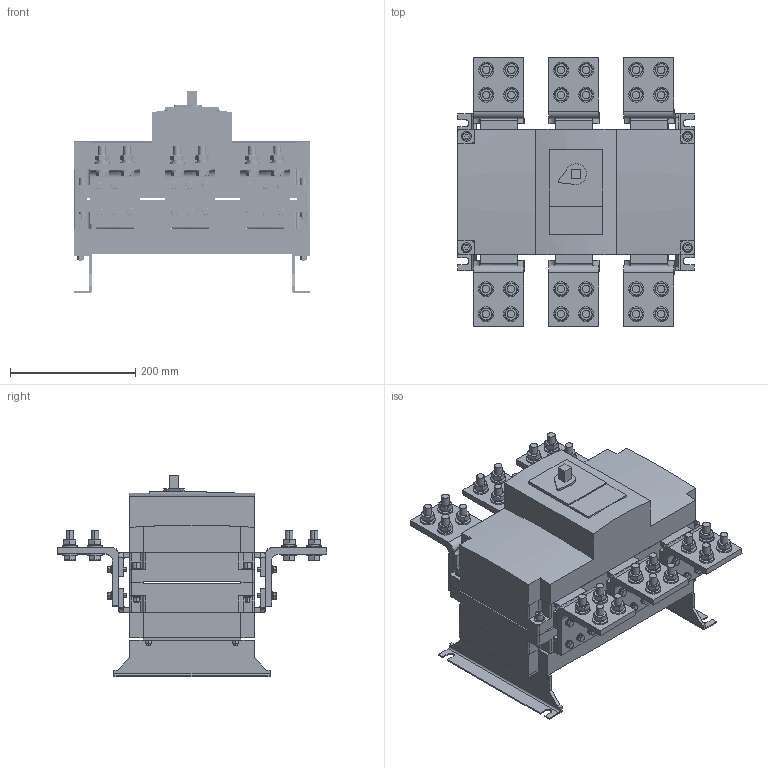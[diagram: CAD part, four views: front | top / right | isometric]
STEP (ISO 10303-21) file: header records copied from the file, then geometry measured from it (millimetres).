
FILE_DESCRIPTION((''),'2;1');
FILE_NAME('NH40-2000-3_ASM','2021-03-15T',('wangpeng'),(''),'PRO/ENGINEER BY PARAMETRIC TECHNOLOGY CORPORATION, 2009460','PRO/ENGINEER BY PARAMETRIC TECHNOLOGY CORPORATION, 2009460','');
FILE_SCHEMA(('AUTOMOTIVE_DESIGN { 1 0 10303 214 1 1 1 1 }'));
Length unit declared in the file: millimetre
Products named in the file (19): BANNH40-2000-3; DZNH40-2000-3; AZBNH40-2000-3; LJBNH40-2000-3; CTNH40-2000-3; SGNH40-2000-3; FZNH40-2000-3; ZSJNH40-2000-3; PDQ12; LSM12; TDQ12; LMM12; PDQ8; PDQ6; TDQ6; LSM6; NLFLSM6; LMM6; NH40-2000-3_ASM
Assembly tree (279 placements, depth 2):
  NH40-2000-3_ASM
    BANNH40-2000-3  x2
    DZNH40-2000-3
    AZBNH40-2000-3  x2
    LJBNH40-2000-3  x8
    CTNH40-2000-3  x6
    SGNH40-2000-3
    FZNH40-2000-3
    ZSJNH40-2000-3
    PDQ12  x49
    LSM12  x24
    TDQ12  x24
    LMM12  x24
    PDQ8  x4
    PDQ6  x40
    TDQ6  x40
    LSM6  x41
    NLFLSM6  x4
    LMM6  x7
Bounding box: 378 x 430 x 321 mm (x, y, z)
Volume: 16280909.3 mm3; surface area: 1729754.4 mm2
Topology: 279 solids, 279 shells, 3634 faces, 8208 edges, 5206 vertices
Faces by surface type: plane 1665, cylinder 1207, cone 762
Entity records: 15736 total; most frequent: CARTESIAN_POINT 2989, DIRECTION 2415, ORIENTED_EDGE 1818, AXIS2_PLACEMENT_3D 934, EDGE_CURVE 909, VERTEX_POINT 592, VECTOR 547, LINE 547
